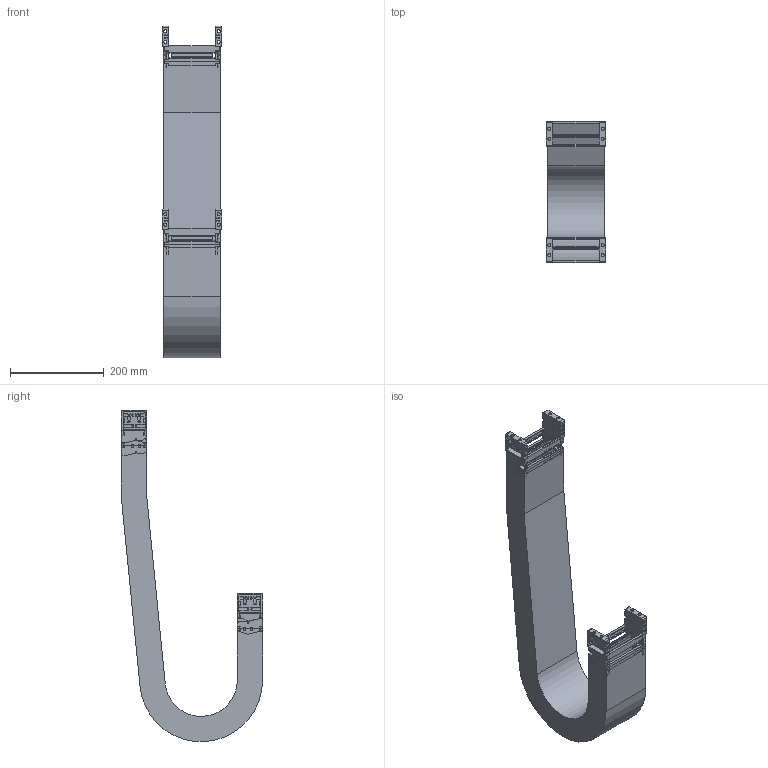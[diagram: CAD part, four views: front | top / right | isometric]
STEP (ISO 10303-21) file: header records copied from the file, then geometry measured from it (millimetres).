
FILE_DESCRIPTION((''),'2;1');
FILE_NAME('KST-40100-100_ASM','2017-12-06T',('KUNI004K'),(''),'PRO/ENGINEER BY PARAMETRIC TECHNOLOGY CORPORATION, 2015200','PRO/ENGINEER BY PARAMETRIC TECHNOLOGY CORPORATION, 2015200','');
FILE_SCHEMA(('AUTOMOTIVE_DESIGN { 1 0 10303 214 1 1 1 1 }'));
Length unit declared in the file: millimetre
Products named in the file (13): 40FBR; 40FBL; 40100C; KST40FB_W100_ASM; KST40100R; KST40100L; 40100H; KST40100-100_1_ASM; KST40100_R100_BODY; 40MBR; 40MBL; KST40MB_W100_ASM; KST-40100-100_ASM
Assembly tree (19 placements, depth 3):
  KST-40100-100_ASM
    KST40FB_W100_ASM
      40FBR
      40FBL
      40100C  x2
    KST40100-100_1_ASM  x2
      KST40100R
      KST40100L
      40100C
      40100H
    KST40100_R100_BODY
    KST40MB_W100_ASM
      40MBR
      40MBL
      40100C  x2
Bounding box: 126 x 301 x 706.39 mm (x, y, z)
Volume: 2499631.3 mm3; surface area: 922034 mm2
Topology: 21 solids, 21 shells, 2808 faces, 7678 edges, 4940 vertices
Faces by surface type: plane 1470, cylinder 970, bspline 300, torus 68
Entity records: 68286 total; most frequent: CARTESIAN_POINT 13753, ORIENTED_EDGE 7320, DIRECTION 6648, PRESENTATION_STYLE_ASSIGNMENT 4992, STYLED_ITEM 4992, CURVE_STYLE 3660, EDGE_CURVE 3660, VECTOR 2372
